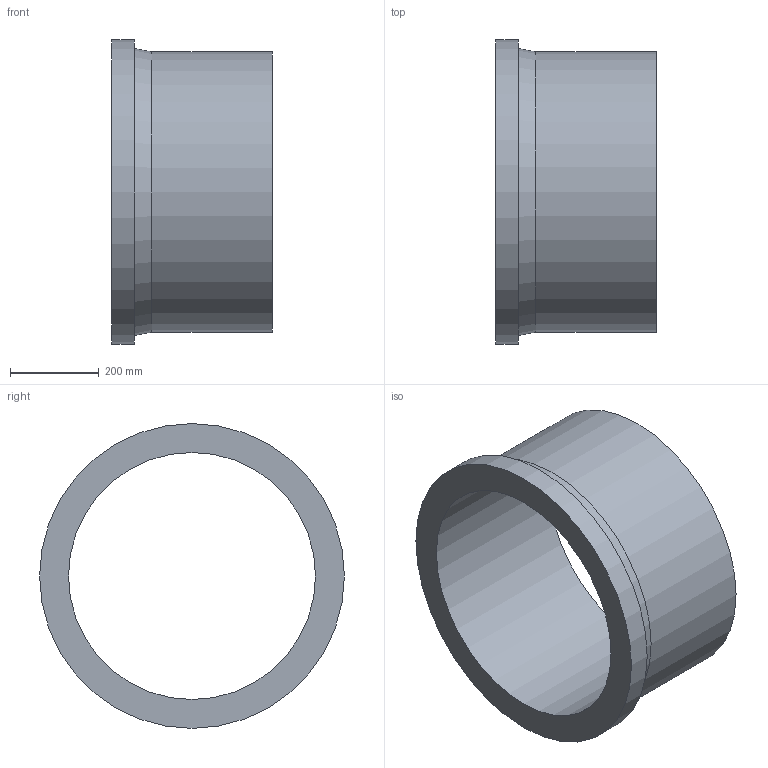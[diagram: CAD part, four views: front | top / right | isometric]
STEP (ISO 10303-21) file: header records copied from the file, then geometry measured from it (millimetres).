
FILE_DESCRIPTION(('Beschreibung'),'1');
FILE_NAME('V:/Ziel/25.80.01.063_SDR_17_PE100_630.STP', '2014-09-15T06:21:49',('Author'), ('Organization'), 'KCM Version 1.1.794.0', 'Kubotek KeyCreator', 'Authorization');
FILE_SCHEMA(('CONFIG_CONTROL_DESIGN'));
Length unit declared in the file: millimetre
Bounding box: 360 x 685 x 685 mm (x, y, z)
Volume: 28205466.7 mm3; surface area: 1589250.4 mm2
Topology: 1 solids, 1 shells, 7 faces, 18 edges, 21 vertices
Faces by surface type: cylinder 3, plane 3, cone 1
Full cylindrical faces by diameter (mm): 555.2 x1, 630 x1, 685 x1
Entity records: 286 total; most frequent: DIRECTION 41, CARTESIAN_POINT 33, ORIENTED_EDGE 22, AXIS2_PLACEMENT_3D 15, EDGE_CURVE 11, VECTOR 11, LINE 11, EDGE_LOOP 10
